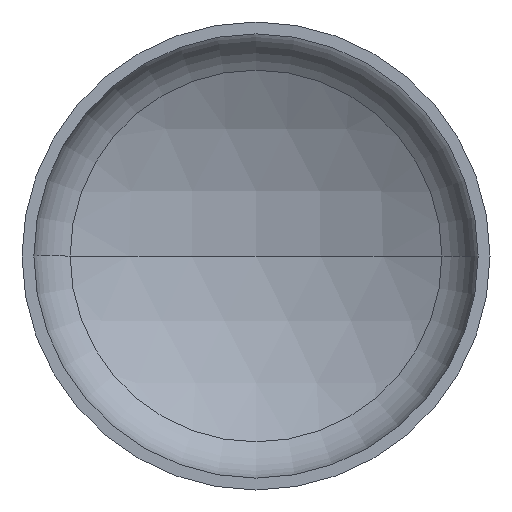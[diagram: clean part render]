
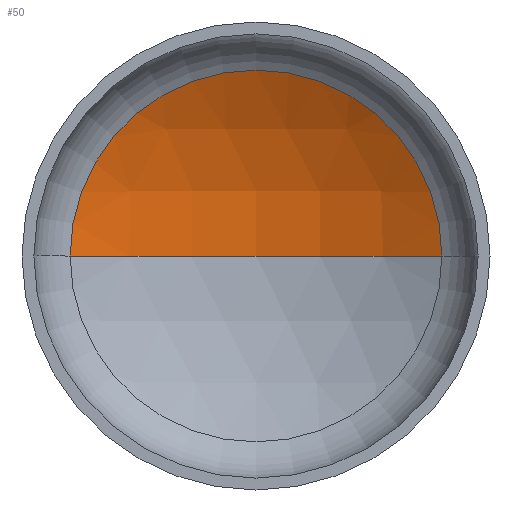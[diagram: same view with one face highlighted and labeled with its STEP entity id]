
A CAD part, front view. The second image highlights one B-rep face of the part: STEP entity #50.
In plain terms, the highlighted spherical face has radius 1040 mm.
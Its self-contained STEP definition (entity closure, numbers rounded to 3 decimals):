
#1 = CARTESIAN_POINT ( 'NONE',  ( 0., 273.616, 0. ) ) ;
#8 = ORIENTED_EDGE ( 'NONE', *, *, #153, .F. ) ;
#17 = VERTEX_POINT ( 'NONE', #297 ) ;
#41 = VERTEX_POINT ( 'NONE', #294 ) ;
#43 = AXIS2_PLACEMENT_3D ( 'NONE', #241, #87, #104 ) ;
#46 = DIRECTION ( 'NONE',  ( 0., -1., 0. ) ) ;
#47 = AXIS2_PLACEMENT_3D ( 'NONE', #271, #181, #183 ) ;
#50 = ADVANCED_FACE ( 'NONE', ( #209 ), #116, .F. ) ;
#51 = AXIS2_PLACEMENT_3D ( 'NONE', #1, #46, #267 ) ;
#56 = ORIENTED_EDGE ( 'NONE', *, *, #121, .T. ) ;
#58 = VERTEX_POINT ( 'NONE', #242 ) ;
#70 = AXIS2_PLACEMENT_3D ( 'NONE', #154, #131, #254 ) ;
#73 = CIRCLE ( 'NONE', #47, 1040. ) ;
#87 = DIRECTION ( 'NONE',  ( 0., 0., 1. ) ) ;
#88 = EDGE_CURVE ( 'NONE', #58, #17, #196, .T. ) ;
#104 = DIRECTION ( 'NONE',  ( 1., 0., 0. ) ) ;
#116 = SPHERICAL_SURFACE ( 'NONE', #70, 1040. ) ;
#121 = EDGE_CURVE ( 'NONE', #41, #58, #73, .T. ) ;
#129 = EDGE_LOOP ( 'NONE', ( #8, #56, #386 ) ) ;
#131 = DIRECTION ( 'NONE',  ( 0., 0., -1. ) ) ;
#153 = EDGE_CURVE ( 'NONE', #41, #17, #244, .T. ) ;
#154 = CARTESIAN_POINT ( 'NONE',  ( 0., -629.185, 0. ) ) ;
#181 = DIRECTION ( 'NONE',  ( 0., 0., -1. ) ) ;
#183 = DIRECTION ( 'NONE',  ( -1., 0., 0. ) ) ;
#196 = CIRCLE ( 'NONE', #51, 516.286 ) ;
#209 = FACE_OUTER_BOUND ( 'NONE', #129, .T. ) ;
#241 = CARTESIAN_POINT ( 'NONE',  ( 0., -629.185, 0. ) ) ;
#242 = CARTESIAN_POINT ( 'NONE',  ( 516.286, 273.616, 0. ) ) ;
#244 = CIRCLE ( 'NONE', #43, 1040. ) ;
#254 = DIRECTION ( 'NONE',  ( -1., 0., 0. ) ) ;
#267 = DIRECTION ( 'NONE',  ( 1., 0., 0. ) ) ;
#271 = CARTESIAN_POINT ( 'NONE',  ( 0., -629.185, 0. ) ) ;
#294 = CARTESIAN_POINT ( 'NONE',  ( 0., 410.815, 0. ) ) ;
#297 = CARTESIAN_POINT ( 'NONE',  ( -516.286, 273.616, 0. ) ) ;
#386 = ORIENTED_EDGE ( 'NONE', *, *, #88, .T. ) ;
